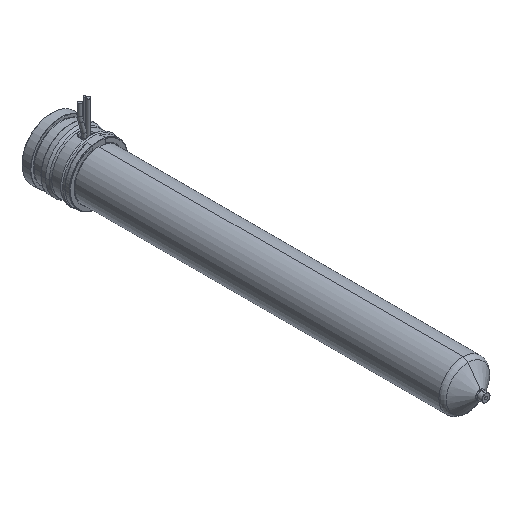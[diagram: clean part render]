
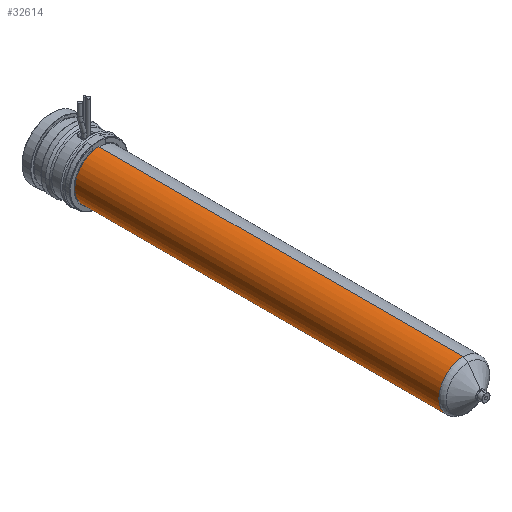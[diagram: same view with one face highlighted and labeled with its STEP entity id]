
A CAD part, isometric view. The second image highlights one B-rep face of the part: STEP entity #32614.
In plain terms, the highlighted cylindrical face has radius 12 mm (diameter 24 mm), a partial arc.
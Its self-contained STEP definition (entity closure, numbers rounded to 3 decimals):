
#32259=CARTESIAN_POINT('',(0.,-24.,0.));
#32260=DIRECTION('',(0.,1.,0.));
#32261=DIRECTION('',(0.,0.,-1.));
#32262=AXIS2_PLACEMENT_3D('',#32259,#32260,#32261);
#32267=DIRECTION('',(0.,1.,0.));
#32268=VECTOR('',#32267,180.671);
#32269=CARTESIAN_POINT('',(0.,-204.671,12.));
#32270=LINE('',#32269,#32268);
#32282=DIRECTION('',(0.,1.,0.));
#32283=VECTOR('',#32282,180.671);
#32284=CARTESIAN_POINT('',(0.,-204.671,-12.));
#32285=LINE('',#32284,#32283);
#32313=CARTESIAN_POINT('',(0.,-204.671,0.));
#32314=DIRECTION('',(0.,-1.,0.));
#32315=DIRECTION('',(0.,0.,1.));
#32316=AXIS2_PLACEMENT_3D('',#32313,#32314,#32315);
#32503=CARTESIAN_POINT('',(0.,-204.671,12.));
#32504=CARTESIAN_POINT('',(0.,-24.,12.));
#32505=VERTEX_POINT('',#32503);
#32506=VERTEX_POINT('',#32504);
#32511=CARTESIAN_POINT('',(0.,-204.671,-12.));
#32512=CARTESIAN_POINT('',(0.,-24.,-12.));
#32513=VERTEX_POINT('',#32511);
#32514=VERTEX_POINT('',#32512);
#32600=CARTESIAN_POINT('',(0.,-10.2,0.));
#32601=DIRECTION('',(0.,-1.,0.));
#32602=DIRECTION('',(0.,0.,1.));
#32603=AXIS2_PLACEMENT_3D('',#32600,#32601,#32602);
#32604=CYLINDRICAL_SURFACE('',#32603,12.);
#32606=ORIENTED_EDGE('',*,*,#32605,.F.);
#32608=ORIENTED_EDGE('',*,*,#32607,.T.);
#32610=ORIENTED_EDGE('',*,*,#32609,.T.);
#32611=ORIENTED_EDGE('',*,*,#32593,.T.);
#32612=EDGE_LOOP('',(#32606,#32608,#32610,#32611));
#32613=FACE_OUTER_BOUND('',#32612,.F.);
#32614=ADVANCED_FACE('',(#32613),#32604,.T.);
#32263=CIRCLE('',#32262,12.);
#32317=CIRCLE('',#32316,12.);
#32593=EDGE_CURVE('',#32514,#32506,#32263,.T.);
#32605=EDGE_CURVE('',#32505,#32506,#32270,.T.);
#32607=EDGE_CURVE('',#32505,#32513,#32317,.T.);
#32609=EDGE_CURVE('',#32513,#32514,#32285,.T.);
